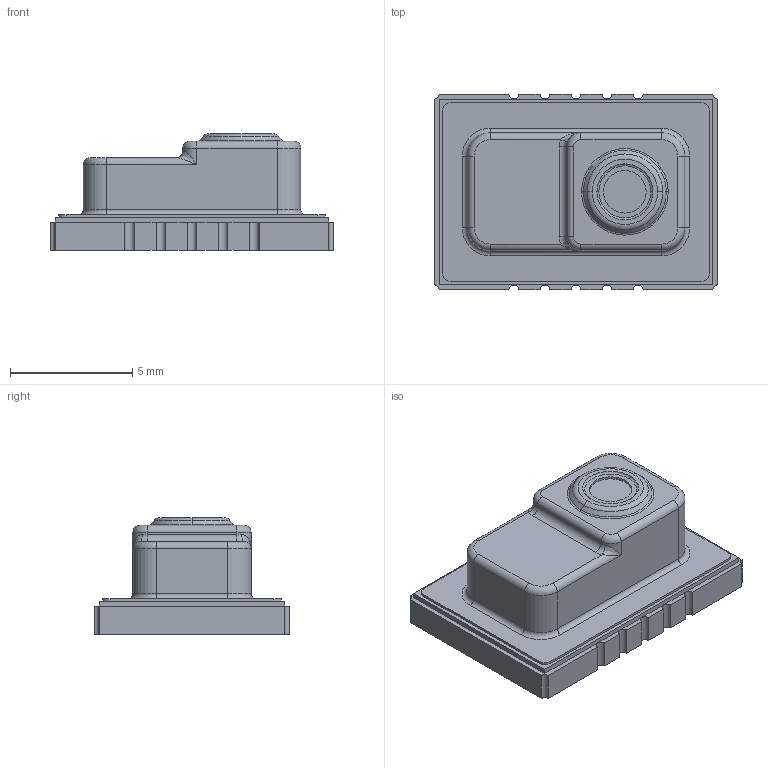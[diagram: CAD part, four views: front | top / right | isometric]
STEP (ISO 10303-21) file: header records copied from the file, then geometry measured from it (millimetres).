
FILE_DESCRIPTION (( 'STEP AP203' ), '1' );
FILE_NAME ('Assem1.STEP', '2022-09-07T09:41:37', ( '' ), ( '' ), 'SwSTEP 2.0', 'SolidWorks 2018', '' );
FILE_SCHEMA (( 'CONFIG_CONTROL_DESIGN' ));
Length unit declared in the file: millimetre
Products named in the file (3): CVS604N; Assem1; seramic_pkg
Assembly tree (2 placements, depth 2):
  Assem1
    CVS604N
    seramic_pkg
Bounding box: 11.6 x 8 x 4.76 mm (x, y, z)
Volume: 246.2 mm3; surface area: 469.4 mm2
Topology: 2 solids, 2 shells, 139 faces, 343 edges, 214 vertices
Faces by surface type: plane 71, cylinder 38, torus 18, bspline 10, cone 2
Entity records: 4718 total; most frequent: CARTESIAN_POINT 1113, DIRECTION 705, ORIENTED_EDGE 682, EDGE_CURVE 341, AXIS2_PLACEMENT_3D 250, VERTEX_POINT 214, LINE 205, VECTOR 205
